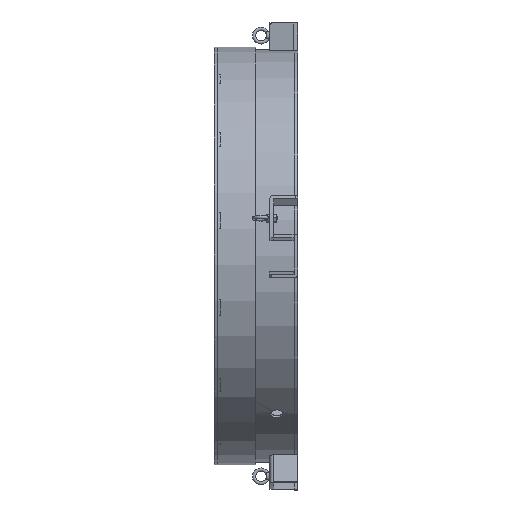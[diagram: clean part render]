
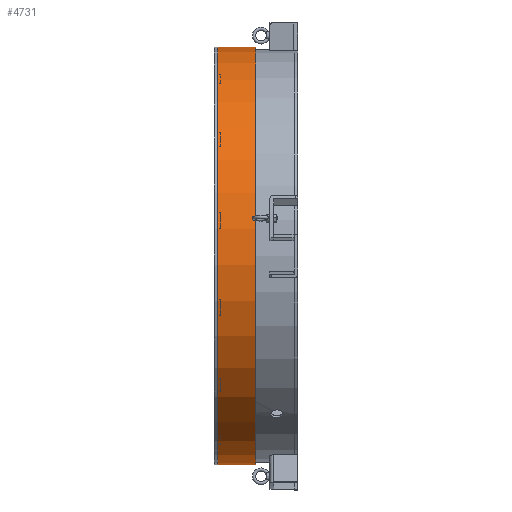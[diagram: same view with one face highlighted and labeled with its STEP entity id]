
A CAD part, left-side view. The second image highlights one B-rep face of the part: STEP entity #4731.
In plain terms, the highlighted cylindrical face has radius 500 mm (diameter 1000 mm), a partial arc.
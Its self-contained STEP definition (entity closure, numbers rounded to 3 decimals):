
#579=CYLINDRICAL_SURFACE('',#5400,500.);
#730=CIRCLE('',#5401,500.);
#731=CIRCLE('',#5402,500.);
#732=CIRCLE('',#5403,500.);
#733=CIRCLE('',#5404,500.);
#1011=FACE_OUTER_BOUND('',#1320,.T.);
#1320=EDGE_LOOP('',(#3644,#3645,#3646,#3647,#3648,#3649));
#1701=LINE('',#7882,#2008);
#1705=LINE('',#7891,#2012);
#2008=VECTOR('',#6312,10.);
#2012=VECTOR('',#6318,10.);
#2329=VERTEX_POINT('',#7879);
#2330=VERTEX_POINT('',#7881);
#2333=VERTEX_POINT('',#7888);
#2334=VERTEX_POINT('',#7890);
#2335=VERTEX_POINT('',#7894);
#2336=VERTEX_POINT('',#7897);
#2808=EDGE_CURVE('',#2330,#2329,#1701,.T.);
#2812=EDGE_CURVE('',#2334,#2333,#1705,.T.);
#2814=EDGE_CURVE('',#2335,#2329,#730,.T.);
#2815=EDGE_CURVE('',#2334,#2335,#731,.T.);
#2816=EDGE_CURVE('',#2333,#2336,#732,.T.);
#2817=EDGE_CURVE('',#2336,#2330,#733,.T.);
#3644=ORIENTED_EDGE('',*,*,#2808,.T.);
#3645=ORIENTED_EDGE('',*,*,#2814,.F.);
#3646=ORIENTED_EDGE('',*,*,#2815,.F.);
#3647=ORIENTED_EDGE('',*,*,#2812,.T.);
#3648=ORIENTED_EDGE('',*,*,#2816,.T.);
#3649=ORIENTED_EDGE('',*,*,#2817,.T.);
#4731=ADVANCED_FACE('',(#1011),#579,.T.);
#5400=AXIS2_PLACEMENT_3D('',#7893,#6320,#6321);
#5401=AXIS2_PLACEMENT_3D('',#7895,#6322,#6323);
#5402=AXIS2_PLACEMENT_3D('',#7896,#6324,#6325);
#5403=AXIS2_PLACEMENT_3D('',#7898,#6326,#6327);
#5404=AXIS2_PLACEMENT_3D('',#7899,#6328,#6329);
#6312=DIRECTION('',(0.,-1.,0.));
#6318=DIRECTION('',(0.,1.,0.));
#6320=DIRECTION('center_axis',(0.,-1.,0.));
#6321=DIRECTION('ref_axis',(-1.,0.,0.));
#6322=DIRECTION('center_axis',(0.,-1.,0.));
#6323=DIRECTION('ref_axis',(-1.,0.,0.));
#6324=DIRECTION('center_axis',(0.,-1.,0.));
#6325=DIRECTION('ref_axis',(-1.,0.,0.));
#6326=DIRECTION('center_axis',(0.,-1.,0.));
#6327=DIRECTION('ref_axis',(-1.,0.,0.));
#6328=DIRECTION('center_axis',(0.,-1.,0.));
#6329=DIRECTION('ref_axis',(-1.,0.,0.));
#7879=CARTESIAN_POINT('',(500.,1.,-0.3));
#7881=CARTESIAN_POINT('',(500.,91.,-0.3));
#7882=CARTESIAN_POINT('',(500.,46.,-0.3));
#7888=CARTESIAN_POINT('',(500.,91.,0.3));
#7890=CARTESIAN_POINT('',(500.,1.,0.3));
#7891=CARTESIAN_POINT('',(500.,46.,0.3));
#7893=CARTESIAN_POINT('Origin',(0.,46.,0.));
#7894=CARTESIAN_POINT('',(-500.,1.,0.));
#7895=CARTESIAN_POINT('Origin',(0.,1.,0.));
#7896=CARTESIAN_POINT('Origin',(0.,1.,0.));
#7897=CARTESIAN_POINT('',(-500.,91.,0.));
#7898=CARTESIAN_POINT('Origin',(0.,91.,0.));
#7899=CARTESIAN_POINT('Origin',(0.,91.,0.));
